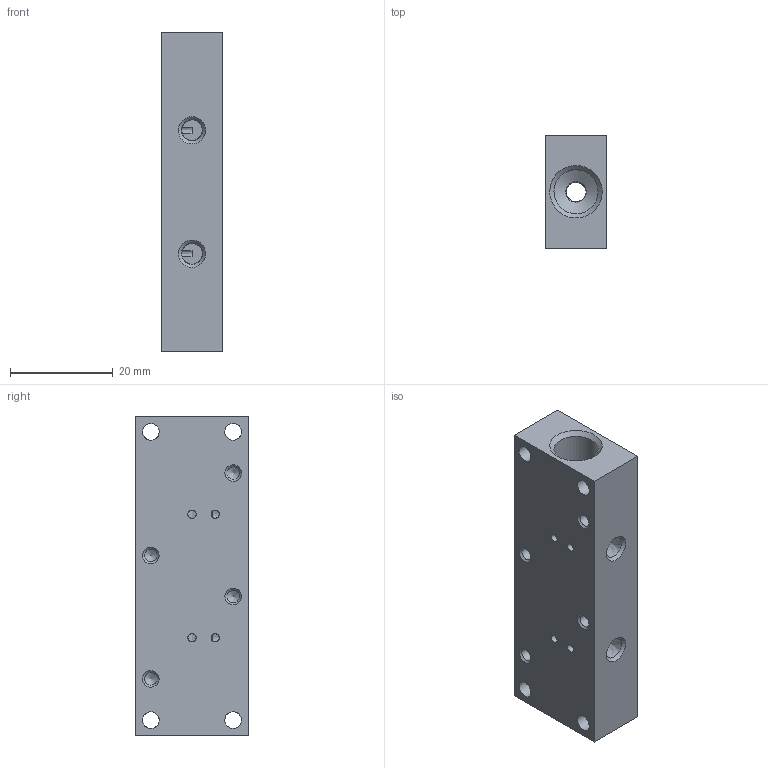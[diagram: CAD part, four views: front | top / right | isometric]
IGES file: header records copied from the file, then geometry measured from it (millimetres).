
Global section: file name: 305_08_02; native system: Autodesk Inventor 2014; preprocessor: unknown; author: A. Manieri; organization: Pneumax S.p.A.; date: 20161004.151302; units: millimetre
Bounding box: 12 x 22 x 62 mm (x, y, z)
Volume: 13830.5 mm3; surface area: 6651.5 mm2
Topology: 1 solids, 1 shells, 41 faces, 134 edges, 95 vertices
Faces by surface type: bspline 41
